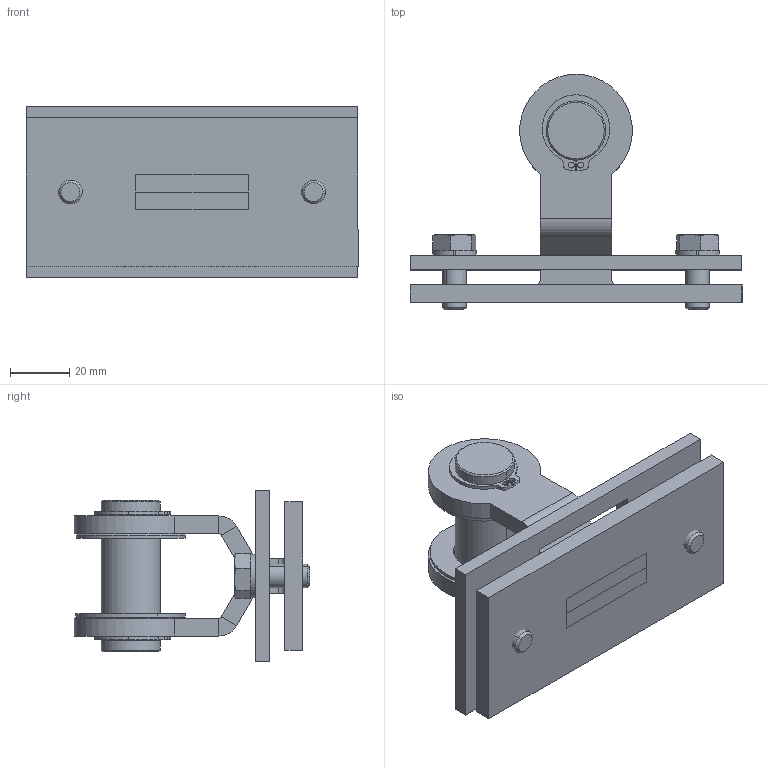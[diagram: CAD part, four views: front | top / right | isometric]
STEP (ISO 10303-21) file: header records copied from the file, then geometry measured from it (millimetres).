
FILE_DESCRIPTION (( 'STEP AP214' ), '1' );
FILE_NAME ('900.100.105.STEP', '2015-02-23T15:36:24', ( '' ), ( '' ), 'SwSTEP 2.0', 'SolidWorks 2012', '' );
FILE_SCHEMA (( 'AUTOMOTIVE_DESIGN' ));
Length unit declared in the file: millimetre
Products named in the file (8): 900.100.021; 900.100.105; RONDELLA 20 (21-37-1.5); circlip for shafts normal_din_Circlip DIN 471 - 20 x 1.2; curved spring lock washer_din_Spring washer DIN 128 - A10; 900.100.005; 900.100.007-1_Default<A macchina>; VITI TE UNI 5739_M8x20 UNI 5739
Assembly tree (11 placements, depth 2):
  900.100.105
    900.100.007-1_Default<A macchina>
    900.100.005
    VITI TE UNI 5739_M8x20 UNI 5739  x2
    RONDELLA 20 (21-37-1.5)  x2
    900.100.021
    circlip for shafts normal_din_Circlip DIN 471 - 20 x 1.2  x2
    curved spring lock washer_din_Spring washer DIN 128 - A10  x2
Bounding box: 112 x 79.4 x 58 mm (x, y, z)
Volume: 102621 mm3; surface area: 47996.5 mm2
Topology: 13 solids, 13 shells, 228 faces, 528 edges, 332 vertices
Faces by surface type: plane 106, cylinder 86, cone 24, torus 12
Entity records: 5496 total; most frequent: DIRECTION 904, CARTESIAN_POINT 901, ORIENTED_EDGE 784, EDGE_CURVE 392, AXIS2_PLACEMENT_3D 343, VERTEX_POINT 244, LINE 218, VECTOR 218
